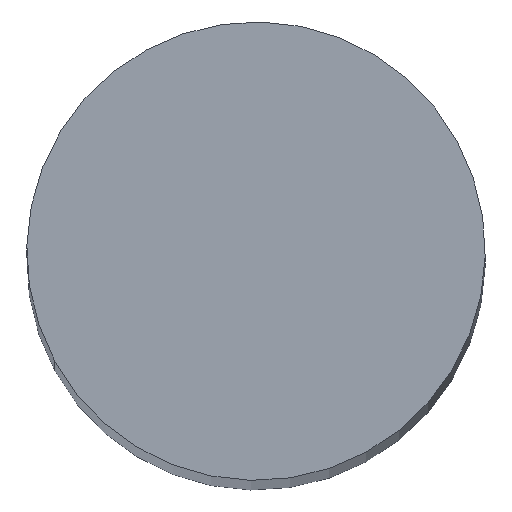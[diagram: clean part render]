
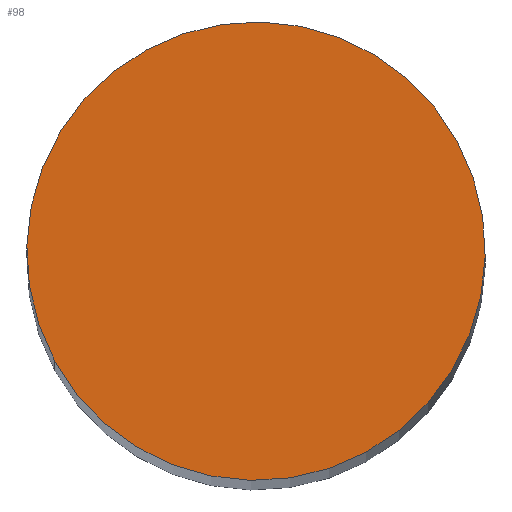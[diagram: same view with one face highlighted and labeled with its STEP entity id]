
A CAD part, top view. The second image highlights one B-rep face of the part: STEP entity #98.
In plain terms, the highlighted planar face has unit normal (0, 0, 1).
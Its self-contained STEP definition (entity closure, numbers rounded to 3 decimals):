
#39=AXIS2_PLACEMENT_3D('Circle Axis2P3D',#37,#38,$) ;
#74=AXIS2_PLACEMENT_3D('Circle Axis2P3D',#72,#73,$) ;
#92=AXIS2_PLACEMENT_3D('Plane Axis2P3D',#89,#90,#91) ;
#37=CARTESIAN_POINT('Axis2P3D Location',(0.,0.,50.)) ;
#41=CARTESIAN_POINT('Vertex',(1.755,0.959,50.)) ;
#43=CARTESIAN_POINT('Vertex',(-1.755,-0.959,50.)) ;
#72=CARTESIAN_POINT('Axis2P3D Location',(0.,0.,50.)) ;
#89=CARTESIAN_POINT('Axis2P3D Location',(0.,0.,50.)) ;
#38=DIRECTION('Axis2P3D Direction',(0.,-0.,1.)) ;
#73=DIRECTION('Axis2P3D Direction',(0.,-0.,1.)) ;
#90=DIRECTION('Axis2P3D Direction',(0.,-0.,1.)) ;
#91=DIRECTION('Axis2P3D XDirection',(1.,0.,0.)) ;
#95=ORIENTED_EDGE('',*,*,#45,.T.) ;
#96=ORIENTED_EDGE('',*,*,#76,.T.) ;
#98=ADVANCED_FACE('NOCUT',(#97),#93,.T.) ;
#40=CIRCLE('generated circle',#39,2.) ;
#75=CIRCLE('generated circle',#74,2.) ;
#45=EDGE_CURVE('',#42,#44,#40,.T.) ;
#76=EDGE_CURVE('',#44,#42,#75,.T.) ;
#94=EDGE_LOOP('',(#95,#96)) ;
#97=FACE_OUTER_BOUND('',#94,.T.) ;
#93=PLANE('',#92) ;
#42=VERTEX_POINT('',#41) ;
#44=VERTEX_POINT('',#43) ;
